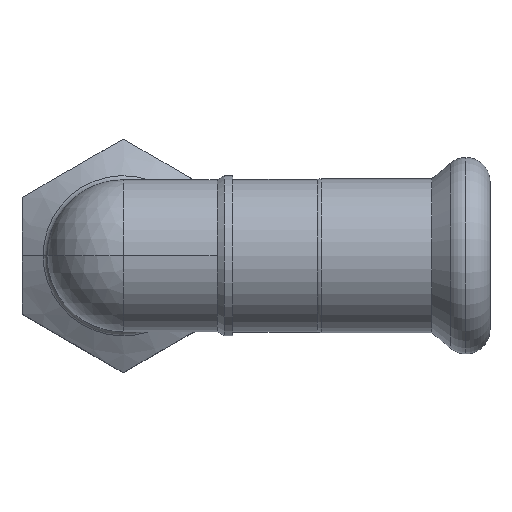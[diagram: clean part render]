
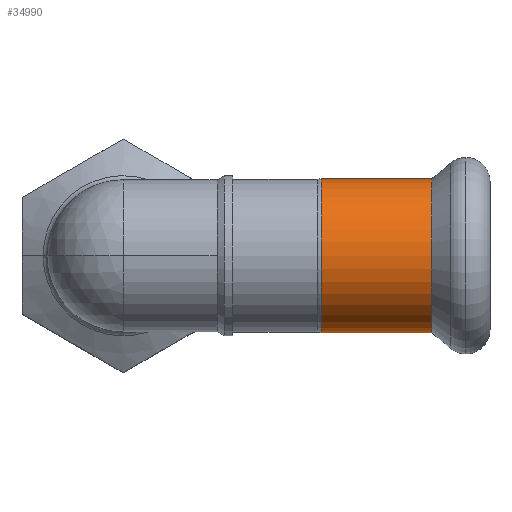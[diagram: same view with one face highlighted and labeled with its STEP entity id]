
A CAD part, top view. The second image highlights one B-rep face of the part: STEP entity #34990.
In plain terms, the highlighted cylindrical face has radius 9.125 mm (diameter 18.25 mm), a partial arc.
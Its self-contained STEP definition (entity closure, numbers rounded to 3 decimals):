
#26580=CARTESIAN_POINT('',(68.148,41.43,28.2));
#26590=DIRECTION('',(-1.,0.,0.));
#26600=DIRECTION('',(0.,1.,0.));
#26610=AXIS2_PLACEMENT_3D('',#26580,#26590,#26600);
#26620=CYLINDRICAL_SURFACE('',#26610,9.125);
#26630=CARTESIAN_POINT('',(68.148,32.305,28.2));
#26640=DIRECTION('',(-1.,0.,0.));
#26650=VECTOR('',#26640,1.);
#26660=LINE('',#26630,#26650);
#26670=CARTESIAN_POINT('',(74.972,32.305,28.2));
#26680=VERTEX_POINT('',#26670);
#26690=CARTESIAN_POINT('',(61.852,32.305,28.2));
#26700=VERTEX_POINT('',#26690);
#26710=EDGE_CURVE('',#26680,#26700,#26660,.T.);
#26730=CARTESIAN_POINT('',(74.972,41.43,28.2));
#26740=DIRECTION('',(1.,0.,0.));
#26750=DIRECTION('',(0.,1.,0.));
#26760=AXIS2_PLACEMENT_3D('',#26730,#26740,#26750);
#26770=CIRCLE('',#26760,9.125);
#26780=CARTESIAN_POINT('',(74.972,50.555,28.2));
#26790=VERTEX_POINT('',#26780);
#26820=CARTESIAN_POINT('',(68.148,50.555,28.2));
#26830=DIRECTION('',(-1.,0.,0.));
#26840=VECTOR('',#26830,1.);
#26850=LINE('',#26820,#26840);
#26860=CARTESIAN_POINT('',(61.852,50.555,28.2));
#26870=VERTEX_POINT('',#26860);
#26880=EDGE_CURVE('',#26790,#26870,#26850,.T.);
#26900=CARTESIAN_POINT('',(61.852,41.43,28.2));
#26910=DIRECTION('',(-1.,0.,0.));
#26920=DIRECTION('',(0.,1.,0.));
#26930=AXIS2_PLACEMENT_3D('',#26900,#26910,#26920);
#26940=CIRCLE('',#26930,9.125);
#31440=EDGE_CURVE('',#26700,#26870,#26940,.T.);
#34710=EDGE_CURVE('',#26790,#26680,#26770,.T.);
#34930=ORIENTED_EDGE('',*,*,#34710,.F.);
#34940=ORIENTED_EDGE('',*,*,#26710,.F.);
#34950=ORIENTED_EDGE('',*,*,#31440,.F.);
#34960=ORIENTED_EDGE('',*,*,#26880,.T.);
#34970=EDGE_LOOP('',(#34960,#34950,#34940,#34930));
#34980=FACE_OUTER_BOUND('',#34970,.T.);
#34990=ADVANCED_FACE('',(#34980),#26620,.T.);
